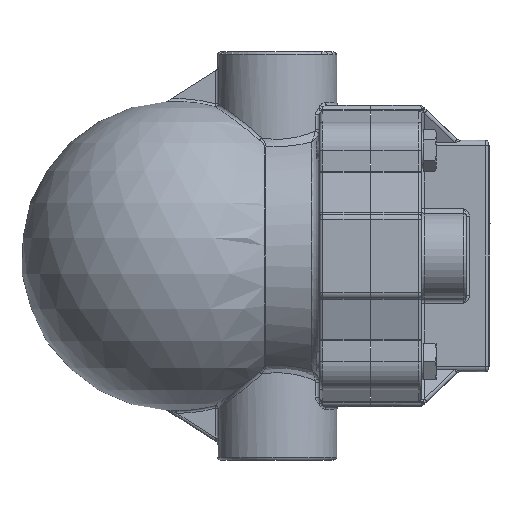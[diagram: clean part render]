
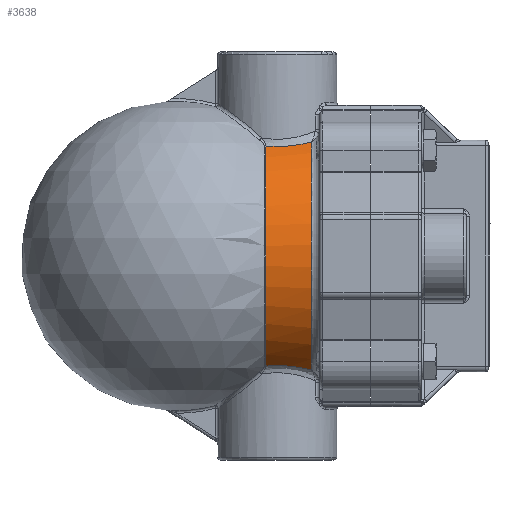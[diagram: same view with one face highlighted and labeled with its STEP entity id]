
A CAD part, left-side view. The second image highlights one B-rep face of the part: STEP entity #3638.
In plain terms, the highlighted cylindrical face has radius 45 mm (diameter 90 mm), a partial arc.
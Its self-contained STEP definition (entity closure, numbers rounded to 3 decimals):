
#3638=ADVANCED_FACE('',(#16447),#16449,.T.);
#16447=FACE_BOUND('',#16448,.T.);
#16448=EDGE_LOOP('',(#39302,#39303,#39304,#39305));
#16449=CYLINDRICAL_SURFACE('',#16450,45.);
#16450=AXIS2_PLACEMENT_3D('',#16451,#16452,#16453);
#16451=CARTESIAN_POINT('',(0.,-15.146,0.));
#16452=DIRECTION('',(0.,1.,0.));
#16453=DIRECTION('',(-1.,0.,0.));
#39302=ORIENTED_EDGE('',*,*,#45002,.F.);
#39303=ORIENTED_EDGE('',*,*,#44976,.F.);
#39304=ORIENTED_EDGE('',*,*,#44347,.F.);
#39305=ORIENTED_EDGE('',*,*,#44980,.F.);
#44347=EDGE_CURVE('',#48335,#48337,#48338,.T.);
#44976=EDGE_CURVE('',#48337,#49554,#49557,.T.);
#44980=EDGE_CURVE('',#49562,#48335,#49564,.T.);
#45002=EDGE_CURVE('',#49554,#49562,#49597,.T.);
#48335=VERTEX_POINT('',#60272);
#48337=VERTEX_POINT('',#60328);
#48338=CIRCLE('',#60329,45.);
#49554=VERTEX_POINT('',#70675);
#49557=B_SPLINE_CURVE_WITH_KNOTS('',3,
(#70782,#70783,#70784,#70785,#70786,#70787,#70788,#70789,#70790,#70791,#70792,#70793,
#70794,#70795,#70796,#70797,#70798,#70799,#70800,#70801,#70802,#70803,#70804,#70805,
#70806,#70807,#70808,#70809,#70810,#70811,#70812,#70813,#70814,#70815),
.UNSPECIFIED.,.F.,.F.,
(4,1,1,1,1,1,1,1,1,1,1,1,1,1,1,1,1,1,1,1,1,1,1,1,1,1,1,1,1,1,1,4),
(0.,0.033,0.066,0.1,0.133,0.166,
0.198,0.231,0.264,0.296,0.329,
0.361,0.393,0.425,0.456,0.488,
0.529,0.571,0.612,0.643,0.673,
0.703,0.734,0.763,0.793,0.823,
0.853,0.882,0.912,0.941,0.971,
1.),
.UNSPECIFIED.);
#49562=VERTEX_POINT('',#70826);
#49564=B_SPLINE_CURVE_WITH_KNOTS('',3,
(#70876,#70877,#70878,#70879,#70880,#70881,#70882,#70883,#70884,#70885,#70886,#70887,
#70888,#70889,#70890,#70891,#70892,#70893,#70894,#70895,#70896,#70897,#70898,#70899,
#70900,#70901,#70902,#70903,#70904,#70905,#70906,#70907,#70908,#70909,#70910,#70911,
#70912),
.UNSPECIFIED.,.F.,.F.,
(4,1,1,1,1,1,1,1,1,1,1,1,1,1,1,1,1,1,1,1,1,1,1,1,1,1,1,1,1,1,1,1,1,1,4),
(0.,0.03,0.059,0.089,0.118,0.148,
0.178,0.207,0.237,0.266,0.296,
0.326,0.355,0.385,0.415,0.444,
0.474,0.504,0.533,0.562,0.591,
0.619,0.647,0.674,0.7,0.725,
0.75,0.774,0.796,0.817,0.84,
0.863,0.896,0.942,1.),
.UNSPECIFIED.);
#49597=CIRCLE('',#71472,45.);
#60272=CARTESIAN_POINT('',(-19.564,-12.146,40.525));
#60328=CARTESIAN_POINT('',(-19.564,-12.146,-40.525));
#60329=AXIS2_PLACEMENT_3D('',#60330,#60331,#60332);
#60330=CARTESIAN_POINT('',(0.,-12.146,0.));
#60331=DIRECTION('',(0.,-1.,0.));
#60332=DIRECTION('',(-0.435,0.,0.901));
#70675=CARTESIAN_POINT('',(-22.313,4.067,-39.079));
#70782=CARTESIAN_POINT('',(-19.565,-12.146,-40.525));
#70783=CARTESIAN_POINT('',(-19.651,-11.987,-40.484));
#70784=CARTESIAN_POINT('',(-19.819,-11.668,-40.402));
#70785=CARTESIAN_POINT('',(-20.063,-11.183,-40.282));
#70786=CARTESIAN_POINT('',(-20.295,-10.693,-40.165));
#70787=CARTESIAN_POINT('',(-20.517,-10.198,-40.052));
#70788=CARTESIAN_POINT('',(-20.728,-9.699,-39.944));
#70789=CARTESIAN_POINT('',(-20.929,-9.196,-39.839));
#70790=CARTESIAN_POINT('',(-21.118,-8.691,-39.739));
#70791=CARTESIAN_POINT('',(-21.296,-8.181,-39.644));
#70792=CARTESIAN_POINT('',(-21.463,-7.669,-39.553));
#70793=CARTESIAN_POINT('',(-21.619,-7.155,-39.468));
#70794=CARTESIAN_POINT('',(-21.764,-6.639,-39.388));
#70795=CARTESIAN_POINT('',(-21.897,-6.122,-39.314));
#70796=CARTESIAN_POINT('',(-22.019,-5.604,-39.246));
#70797=CARTESIAN_POINT('',(-22.13,-5.086,-39.183));
#70798=CARTESIAN_POINT('',(-22.24,-4.51,-39.12));
#70799=CARTESIAN_POINT('',(-22.346,-3.876,-39.059));
#70800=CARTESIAN_POINT('',(-22.442,-3.183,-39.004));
#70801=CARTESIAN_POINT('',(-22.513,-2.548,-38.964));
#70802=CARTESIAN_POINT('',(-22.563,-1.971,-38.935));
#70803=CARTESIAN_POINT('',(-22.597,-1.455,-38.915));
#70804=CARTESIAN_POINT('',(-22.621,-0.941,-38.901));
#70805=CARTESIAN_POINT('',(-22.634,-0.43,-38.894));
#70806=CARTESIAN_POINT('',(-22.637,0.08,-38.892));
#70807=CARTESIAN_POINT('',(-22.631,0.586,-38.896));
#70808=CARTESIAN_POINT('',(-22.614,1.091,-38.906));
#70809=CARTESIAN_POINT('',(-22.588,1.593,-38.921));
#70810=CARTESIAN_POINT('',(-22.552,2.093,-38.942));
#70811=CARTESIAN_POINT('',(-22.506,2.59,-38.968));
#70812=CARTESIAN_POINT('',(-22.452,3.085,-39.));
#70813=CARTESIAN_POINT('',(-22.388,3.578,-39.036));
#70814=CARTESIAN_POINT('',(-22.339,3.904,-39.064));
#70815=CARTESIAN_POINT('',(-22.313,4.067,-39.079));
#70826=CARTESIAN_POINT('',(-22.313,4.067,39.079));
#70876=CARTESIAN_POINT('',(-22.313,4.067,39.079));
#70877=CARTESIAN_POINT('',(-22.339,3.903,39.064));
#70878=CARTESIAN_POINT('',(-22.389,3.573,39.036));
#70879=CARTESIAN_POINT('',(-22.453,3.078,38.998));
#70880=CARTESIAN_POINT('',(-22.508,2.58,38.967));
#70881=CARTESIAN_POINT('',(-22.554,2.081,38.94));
#70882=CARTESIAN_POINT('',(-22.589,1.58,38.92));
#70883=CARTESIAN_POINT('',(-22.616,1.079,38.904));
#70884=CARTESIAN_POINT('',(-22.632,0.576,38.895));
#70885=CARTESIAN_POINT('',(-22.638,0.074,38.891));
#70886=CARTESIAN_POINT('',(-22.635,-0.429,38.893));
#70887=CARTESIAN_POINT('',(-22.622,-0.931,38.901));
#70888=CARTESIAN_POINT('',(-22.598,-1.433,38.914));
#70889=CARTESIAN_POINT('',(-22.565,-1.935,38.934));
#70890=CARTESIAN_POINT('',(-22.522,-2.435,38.959));
#70891=CARTESIAN_POINT('',(-22.47,-2.935,38.989));
#70892=CARTESIAN_POINT('',(-22.407,-3.433,39.025));
#70893=CARTESIAN_POINT('',(-22.335,-3.93,39.066));
#70894=CARTESIAN_POINT('',(-22.254,-4.423,39.112));
#70895=CARTESIAN_POINT('',(-22.164,-4.911,39.163));
#70896=CARTESIAN_POINT('',(-22.066,-5.39,39.219));
#70897=CARTESIAN_POINT('',(-21.961,-5.86,39.278));
#70898=CARTESIAN_POINT('',(-21.849,-6.317,39.34));
#70899=CARTESIAN_POINT('',(-21.732,-6.763,39.404));
#70900=CARTESIAN_POINT('',(-21.611,-7.192,39.471));
#70901=CARTESIAN_POINT('',(-21.485,-7.609,39.54));
#70902=CARTESIAN_POINT('',(-21.356,-8.011,39.61));
#70903=CARTESIAN_POINT('',(-21.225,-8.398,39.68));
#70904=CARTESIAN_POINT('',(-21.095,-8.763,39.749));
#70905=CARTESIAN_POINT('',(-20.964,-9.111,39.818));
#70906=CARTESIAN_POINT('',(-20.833,-9.448,39.887));
#70907=CARTESIAN_POINT('',(-20.695,-9.787,39.959));
#70908=CARTESIAN_POINT('',(-20.526,-10.185,40.046));
#70909=CARTESIAN_POINT('',(-20.297,-10.697,40.163));
#70910=CARTESIAN_POINT('',(-19.974,-11.373,40.325));
#70911=CARTESIAN_POINT('',(-19.714,-11.871,40.452));
#70912=CARTESIAN_POINT('',(-19.564,-12.145,40.525));
#71472=AXIS2_PLACEMENT_3D('',#71473,#71474,#71475);
#71473=CARTESIAN_POINT('',(0.,4.067,0.));
#71474=DIRECTION('',(0.,1.,0.));
#71475=DIRECTION('',(-0.496,0.,-0.868));
